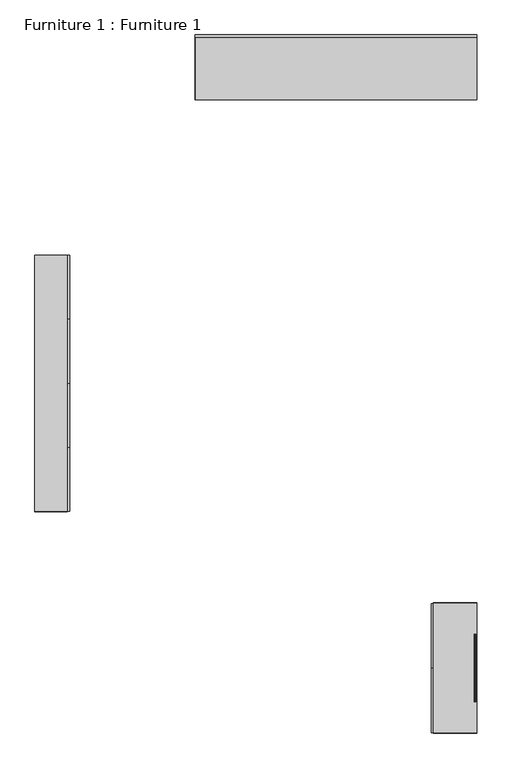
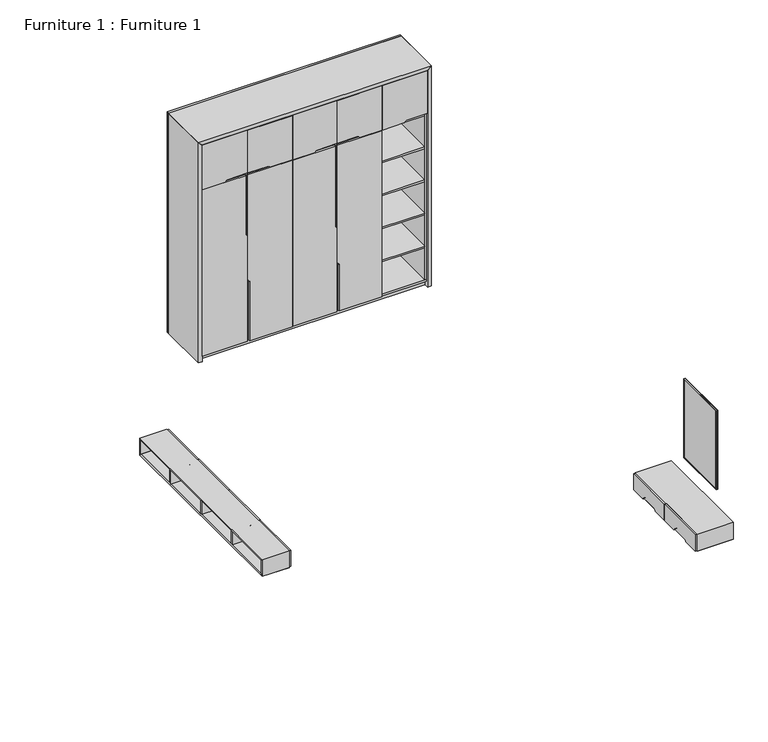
"""IFC4 building model written with IfcOpenShell, lengths in millimetres: furniture geometry, Furniture 1 : Furniture 1."""

from ifc_helpers import new_model, si_unit, point, frame, frame_2d, origin, origin_with_axes, place, context, project, spatial, polyline, circle_curve, ellipse_curve, trimmed, segment, composite_curve, outline, extrude, source, transform, mapped, element, save
from ifc_brep_helpers import plane_surface, cylinder_surface, advanced_brep


def furniture_1_furniture_1_608239b3(model_context):
    return source(origin(), model_context, "Body", "SolidModel", [
        extrude(outline(polyline([(-3038.2037257, -1776.4825683), (-3038.2037257, -2336.9825683), (-3058.2037257, -2336.9825683), (-3058.2037257, -1776.4825683), (-3038.2037257, -1776.4825683)])), frame((0.0, 0.0, 320.0), z_axis=(0.0, 0.0, 1.0), x_axis=(1.0, 0.0, 0.0)), (0.0, 0.0, 1.0), 20.0),
        extrude(outline(polyline([(-3038.2037257, -1184.4825683), (-3038.2037257, -1754.4825683), (-3058.2037257, -1754.4825683), (-3058.2037257, -1184.4825683), (-3038.2037257, -1184.4825683)])), frame((0.0, 0.0, 320.0), z_axis=(0.0, 0.0, 1.0), x_axis=(1.0, 0.0, 0.0)), (0.0, 0.0, 1.0), 20.0),
        extrude(outline(polyline([(-3038.2037257, -592.4825683), (-3038.2037257, -1162.4825683), (-3058.2037257, -1162.4825683), (-3058.2037257, -592.4825683), (-3038.2037257, -592.4825683)])), frame((0.0, 0.0, 320.0), z_axis=(0.0, 0.0, 1.0), x_axis=(1.0, 0.0, 0.0)), (0.0, 0.0, 1.0), 20.0),
        extrude(outline(polyline([(-3038.2037257, -12.9825683), (-3038.2037257, -570.4825683), (-3058.2037257, -570.4825683), (-3058.2037257, -12.9825683), (-3038.2037257, -12.9825683)])), frame((0.0, 0.0, 320.0), z_axis=(0.0, 0.0, 1.0), x_axis=(1.0, 0.0, 0.0)), (0.0, 0.0, 1.0), 20.0),
        extrude(outline(composite_curve([segment(polyline([(-1767.9825683, 495.0), (-1767.9825683, 325.0), (-1836.7325683, 325.0), (-1934.6615005, 325.0)]), True, "CONTINUOUS"), segment(trimmed(circle_curve(frame_2d((-1934.6615005, 320.0)), 5.0), [point((-1934.6615005, 325.0))], [point((-1938.1970344, 323.5355339))], True, "CARTESIAN"), True, "CONTINUOUS"), segment(polyline([(-1938.1970344, 323.5355339), (-1953.8036362, 307.9289322)]), True, "CONTINUOUS"), segment(trimmed(circle_curve(frame_2d((-1960.874704, 315.0)), 10.0), [point((-1953.8036362, 307.9289322))], [point((-1960.874704, 305.0))], False, "CARTESIAN"), True, "CONTINUOUS"), segment(polyline([(-1960.874704, 305.0), (-2352.9825683, 305.0), (-2352.9825683, 495.0), (-1767.9825683, 495.0)]), True, "CONTINUOUS")], self_intersect=False)), frame((-3038.2037257, 0.0, 0.0), z_axis=(1.0, 0.0, 0.0), x_axis=(0.0, 1.0, 0.0)), (0.0, 0.0, 1.0), 20.0),
        extrude(outline(composite_curve([segment(polyline([(-1175.9825683, 305.0), (-1565.0904327, 305.0)]), True, "CONTINUOUS"), segment(trimmed(circle_curve(frame_2d((-1565.0904327, 315.0)), 10.0), [point((-1565.0904327, 305.0))], [point((-1572.1615005, 307.9289322))], False, "CARTESIAN"), True, "CONTINUOUS"), segment(polyline([(-1572.1615005, 307.9289322), (-1587.7681023, 323.5355339)]), True, "CONTINUOUS"), segment(trimmed(circle_curve(frame_2d((-1591.3036362, 320.0)), 5.0), [point((-1587.7681023, 323.5355339))], [point((-1591.3036362, 325.0))], True, "CARTESIAN"), True, "CONTINUOUS"), segment(polyline([(-1591.3036362, 325.0), (-1762.9825683, 325.0), (-1762.9825683, 495.0), (-1175.9825683, 495.0), (-1175.9825683, 305.0)]), True, "CONTINUOUS")], self_intersect=False)), frame((-3038.2037257, 0.0, 0.0), z_axis=(1.0, 0.0, 0.0), x_axis=(0.0, 1.0, 0.0)), (0.0, 0.0, 1.0), 20.0),
        extrude(outline(composite_curve([segment(polyline([(-578.9825683, 495.0), (6.0174317, 495.0), (6.0174317, 305.0), (-386.0904327, 305.0)]), True, "CONTINUOUS"), segment(trimmed(circle_curve(frame_2d((-386.0904327, 315.0)), 10.0), [point((-386.0904327, 305.0))], [point((-393.1615005, 307.9289322))], False, "CARTESIAN"), True, "CONTINUOUS"), segment(polyline([(-393.1615005, 307.9289322), (-408.7681023, 323.5355339)]), True, "CONTINUOUS"), segment(trimmed(circle_curve(frame_2d((-412.3036362, 320.0)), 5.0), [point((-408.7681023, 323.5355339))], [point((-412.3036362, 325.0))], True, "CARTESIAN"), True, "CONTINUOUS"), segment(polyline([(-412.3036362, 325.0), (-510.2325683, 325.0), (-578.9825683, 325.0), (-578.9825683, 495.0)]), True, "CONTINUOUS")], self_intersect=False)), frame((-3038.2037257, 0.0, 0.0), z_axis=(1.0, 0.0, 0.0), x_axis=(0.0, 1.0, 0.0)), (0.0, 0.0, 1.0), 20.0),
        extrude(outline(composite_curve([segment(polyline([(-1170.9825683, 305.0), (-1170.9825683, 495.0), (-583.9825683, 495.0), (-583.9825683, 325.0), (-755.6615005, 325.0)]), True, "CONTINUOUS"), segment(trimmed(circle_curve(frame_2d((-755.6615005, 320.0)), 5.0), [point((-755.6615005, 325.0))], [point((-759.1970344, 323.5355339))], True, "CARTESIAN"), True, "CONTINUOUS"), segment(polyline([(-759.1970344, 323.5355339), (-774.8036362, 307.9289322)]), True, "CONTINUOUS"), segment(trimmed(circle_curve(frame_2d((-781.874704, 315.0)), 10.0), [point((-774.8036362, 307.9289322))], [point((-781.874704, 305.0))], False, "CARTESIAN"), True, "CONTINUOUS"), segment(polyline([(-781.874704, 305.0), (-1170.9825683, 305.0)]), True, "CONTINUOUS")], self_intersect=False)), frame((-3038.2037257, 0.0, 0.0), z_axis=(1.0, 0.0, 0.0), x_axis=(0.0, 1.0, 0.0)), (0.0, 0.0, 1.0), 20.0),
        extrude(outline(polyline([(-2357.2754616, 300.0), (-2337.2754616, 320.0), (-12.6896751, 320.0), (7.3103249, 300.0), (-2357.2754616, 300.0)])), frame((-3338.2037257, 0.0, 0.0), z_axis=(1.0, 0.0, 0.0), x_axis=(0.0, 1.0, 0.0)), (0.0, 0.0, 1.0), 300.0),
        extrude(outline(polyline([(8.0174317, 300.7071068), (-11.9825683, 320.7071068), (-11.9825683, 479.2928932), (8.0174317, 499.2928932), (8.0174317, 300.7071068)])), frame((-3338.2037257, 0.0, 0.0), z_axis=(1.0, 0.0, 0.0), x_axis=(0.0, 1.0, 0.0)), (0.0, 0.0, 1.0), 300.0),
        extrude(outline(polyline([(-2357.9825683, 300.7071068), (-2357.9825683, 499.2928932), (-2337.9825683, 479.2928932), (-2337.9825683, 320.7071068), (-2357.9825683, 300.7071068)])), frame((-3338.2037257, 0.0, 0.0), z_axis=(1.0, 0.0, 0.0), x_axis=(0.0, 1.0, 0.0)), (0.0, 0.0, 1.0), 300.0),
        extrude(outline(polyline([(-2357.2754616, 500.0), (7.3103249, 500.0), (-12.6896751, 480.0), (-2337.2754616, 480.0), (-2357.2754616, 500.0)])), frame((-3338.2037257, 0.0, 0.0), z_axis=(1.0, 0.0, 0.0), x_axis=(0.0, 1.0, 0.0)), (0.0, 0.0, 1.0), 300.0),
        extrude(outline(polyline([(-3038.2037257, -1755.4825683), (-3038.2037257, -1775.4825683), (-3338.2037257, -1775.4825683), (-3338.2037257, -1755.4825683), (-3038.2037257, -1755.4825683)])), frame((0.0, 0.0, 321.0), z_axis=(0.0, 0.0, 1.0), x_axis=(1.0, 0.0, 0.0)), (0.0, 0.0, 1.0), 158.0),
        extrude(outline(polyline([(-3038.2037257, -1163.4825683), (-3038.2037257, -1183.4825683), (-3338.2037257, -1183.4825683), (-3338.2037257, -1163.4825683), (-3038.2037257, -1163.4825683)])), frame((0.0, 0.0, 321.0), z_axis=(0.0, 0.0, 1.0), x_axis=(1.0, 0.0, 0.0)), (0.0, 0.0, 1.0), 158.0),
        extrude(outline(polyline([(-3038.2037257, -571.4825683), (-3038.2037257, -591.4825683), (-3338.2037257, -591.4825683), (-3338.2037257, -571.4825683), (-3038.2037257, -571.4825683)])), frame((0.0, 0.0, 321.0), z_axis=(0.0, 0.0, 1.0), x_axis=(1.0, 0.0, 0.0)), (0.0, 0.0, 1.0), 158.0),
        extrude(outline(polyline([(-4099.9825683, 1890.0), (-3499.9825683, 1890.0), (-3499.9825683, 980.0), (-4099.9825683, 980.0), (-4099.9825683, 1890.0)]), holes=[polyline([(-4089.9825683, 1880.0), (-4089.9825683, 990.0), (-3509.9825683, 990.0), (-3509.9825683, 1880.0), (-4089.9825683, 1880.0)])]), frame((731.7962743, 0.0, 0.0), z_axis=(1.0, 0.0, 0.0), x_axis=(0.0, 1.0, 0.0)), (0.0, 0.0, 1.0), 10.0),
        extrude(outline(polyline([(731.7962743, -4089.9825683), (731.7962743, -3509.9825683), (741.7962743, -3509.9825683), (741.7962743, -4089.9825683), (731.7962743, -4089.9825683)])), frame((0.0, 0.0, 990.0), z_axis=(0.0, 0.0, 1.0), x_axis=(1.0, 0.0, 0.0)), (0.0, 0.0, 1.0), 890.0),
        advanced_brep(
        [(731.7962743, -4109.9825683, 1900.0), (721.7962743, -4109.9825683, 1900.0), (721.7962743, -3489.9825683, 1900.0), (731.7962743, -3489.9825683, 1900.0), (733.8339638, -4107.0194064, 1897.036838), (731.7962743, -4107.0194064, 1897.036838), (731.7962743, -3492.9457303, 1897.036838), (733.8339638, -3492.9457303, 1897.036838), (734.8339638, -4108.0194064, 1898.036838), (734.8339638, -3491.9457303, 1898.036838), (733.8339638, -4112.0194064, 1902.036838), (734.8339638, -4111.0194064, 1901.036838), (734.8339638, -3488.9457303, 1901.036838), (733.8339638, -3487.9457303, 1902.036838), (719.7585848, -4112.0194064, 1902.036838), (719.7585848, -3487.9457303, 1902.036838), (718.7585848, -4111.0194064, 1901.036838), (718.7585848, -3488.9457303, 1901.036838), (719.7585848, -4107.0194064, 1897.036838), (718.7585848, -4108.0194064, 1898.036838), (718.7585848, -3491.9457303, 1898.036838), (719.7585848, -3492.9457303, 1897.036838), (721.7962743, -4107.0194064, 1897.036838), (721.7962743, -3492.9457303, 1897.036838), (721.7962743, -3489.9825683, 970.0), (731.7962743, -3489.9825683, 970.0), (731.7962743, -3492.9457303, 972.963162), (733.8339638, -3492.9457303, 972.963162), (734.8339638, -3491.9457303, 971.963162), (734.8339638, -3488.9457303, 968.963162), (733.8339638, -3487.9457303, 967.963162), (719.7585848, -3487.9457303, 967.963162), (718.7585848, -3488.9457303, 968.963162), (718.7585848, -3491.9457303, 971.963162), (719.7585848, -3492.9457303, 972.963162), (721.7962743, -3492.9457303, 972.963162), (721.7962743, -4109.9825683, 970.0), (731.7962743, -4109.9825683, 970.0), (731.7962743, -4107.0194064, 972.963162), (733.8339638, -4107.0194064, 972.963162), (734.8339638, -4108.0194064, 971.963162), (734.8339638, -4111.0194064, 968.963162), (733.8339638, -4112.0194064, 967.963162), (719.7585848, -4112.0194064, 967.963162), (718.7585848, -4111.0194064, 968.963162), (718.7585848, -4108.0194064, 971.963162), (719.7585848, -4107.0194064, 972.963162), (721.7962743, -4107.0194064, 972.963162)],
        [
            (0, 1),
            (1, 2),
            (2, 3),
            (3, 0),
            (4, 5),
            (5, 6),
            (6, 7),
            (7, 4),
            (8, 4, ellipse_curve(frame((733.8339638, -4108.0194064, 1898.036838), z_axis=(0.0, 0.7071067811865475, 0.7071067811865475), x_axis=(0.0, -0.7071067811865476, 0.7071067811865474)), 1.4142136, 1.0)),
            (7, 9, ellipse_curve(frame((733.8339638, -3491.9457303, 1898.036838), z_axis=(0.0, -0.7071067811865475, 0.7071067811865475), x_axis=(0.0, -0.7071067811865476, -0.7071067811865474)), 1.4142136, 1.0)),
            (9, 8),
            (10, 11, ellipse_curve(frame((733.8339638, -4111.0194064, 1901.036838), z_axis=(0.0, 0.7071067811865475, 0.7071067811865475), x_axis=(0.0, -0.7071067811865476, 0.7071067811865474)), 1.4142136, 1.0)),
            (11, 12),
            (12, 13, ellipse_curve(frame((733.8339638, -3488.9457303, 1901.036838), z_axis=(0.0, -0.7071067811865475, 0.7071067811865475), x_axis=(0.0, -0.7071067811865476, -0.7071067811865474)), 1.4142136, 1.0)),
            (13, 10),
            (14, 10),
            (13, 15),
            (15, 14),
            (16, 14, ellipse_curve(frame((719.7585848, -4111.0194064, 1901.036838), z_axis=(0.0, 0.7071067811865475, 0.7071067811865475), x_axis=(0.0, -0.7071067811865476, 0.7071067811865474)), 1.4142136, 1.0)),
            (15, 17, ellipse_curve(frame((719.7585848, -3488.9457303, 1901.036838), z_axis=(0.0, -0.7071067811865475, 0.7071067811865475), x_axis=(0.0, -0.7071067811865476, -0.7071067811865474)), 1.4142136, 1.0)),
            (17, 16),
            (18, 19, ellipse_curve(frame((719.7585848, -4108.0194064, 1898.036838), z_axis=(0.0, 0.7071067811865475, 0.7071067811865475), x_axis=(0.0, -0.7071067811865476, 0.7071067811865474)), 1.4142136, 1.0)),
            (19, 20),
            (20, 21, ellipse_curve(frame((719.7585848, -3491.9457303, 1898.036838), z_axis=(0.0, -0.7071067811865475, 0.7071067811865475), x_axis=(0.0, -0.7071067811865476, -0.7071067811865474)), 1.4142136, 1.0)),
            (21, 18),
            (22, 18),
            (21, 23),
            (23, 22),
            (2, 24),
            (24, 25),
            (25, 3),
            (6, 26),
            (26, 27),
            (27, 7),
            (27, 28, ellipse_curve(frame((733.8339638, -3491.9457303, 971.963162), z_axis=(0.0, 0.7071067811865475, 0.7071067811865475), x_axis=(0.0, -0.7071067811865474, 0.7071067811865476)), 1.4142136, 1.0)),
            (28, 9),
            (12, 29),
            (29, 30, ellipse_curve(frame((733.8339638, -3488.9457303, 968.963162), z_axis=(0.0, 0.7071067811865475, 0.7071067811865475), x_axis=(0.0, -0.7071067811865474, 0.7071067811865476)), 1.4142136, 1.0)),
            (30, 13),
            (30, 31),
            (31, 15),
            (31, 32, ellipse_curve(frame((719.7585848, -3488.9457303, 968.963162), z_axis=(0.0, 0.7071067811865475, 0.7071067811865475), x_axis=(0.0, -0.7071067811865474, 0.7071067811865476)), 1.4142136, 1.0)),
            (32, 17),
            (20, 33),
            (33, 34, ellipse_curve(frame((719.7585848, -3491.9457303, 971.963162), z_axis=(0.0, 0.7071067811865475, 0.7071067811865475), x_axis=(0.0, -0.7071067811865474, 0.7071067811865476)), 1.4142136, 1.0)),
            (34, 21),
            (34, 35),
            (35, 23),
            (24, 36),
            (36, 37),
            (37, 25),
            (26, 38),
            (38, 39),
            (39, 27),
            (39, 40, ellipse_curve(frame((733.8339638, -4108.0194064, 971.963162), z_axis=(0.0, 0.7071067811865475, -0.7071067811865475), x_axis=(0.0, 0.7071067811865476, 0.7071067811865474)), 1.4142136, 1.0)),
            (40, 28),
            (29, 41),
            (41, 42, ellipse_curve(frame((733.8339638, -4111.0194064, 968.963162), z_axis=(0.0, 0.7071067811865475, -0.7071067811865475), x_axis=(0.0, 0.7071067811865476, 0.7071067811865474)), 1.4142136, 1.0)),
            (42, 30),
            (42, 43),
            (43, 31),
            (43, 44, ellipse_curve(frame((719.7585848, -4111.0194064, 968.963162), z_axis=(0.0, 0.7071067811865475, -0.7071067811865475), x_axis=(0.0, 0.7071067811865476, 0.7071067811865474)), 1.4142136, 1.0)),
            (44, 32),
            (33, 45),
            (45, 46, ellipse_curve(frame((719.7585848, -4108.0194064, 971.963162), z_axis=(0.0, 0.7071067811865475, -0.7071067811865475), x_axis=(0.0, 0.7071067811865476, 0.7071067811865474)), 1.4142136, 1.0)),
            (46, 34),
            (46, 47),
            (47, 35),
            (1, 36),
            (47, 22),
            (0, 37),
            (5, 38),
            (4, 39),
            (8, 40),
            (11, 41),
            (10, 42),
            (14, 43),
            (16, 44),
            (19, 45),
            (18, 46),
        ],
        [
            plane_surface(frame((721.7962743, -4109.9825683, 1900.0), z_axis=(0.0, 0.0, -1.0), x_axis=(0.0, 1.0, 0.0))),
            plane_surface(frame((731.7962743, -4107.0194064, 1897.036838), z_axis=(0.0, 0.0, -1.0), x_axis=(0.0, 1.0, 0.0))),
            cylinder_surface(frame((733.8339638, -4109.9825683, 1898.036838), z_axis=(0.0, -1.0, 0.0), x_axis=(0.0, 0.0, -1.0)), 1.0),
            cylinder_surface(frame((733.8339638, -4109.9825683, 1901.036838), z_axis=(0.0, -1.0, 0.0), x_axis=(0.0, 0.0, -1.0)), 1.0),
            plane_surface(frame((733.8339638, -4112.0194064, 1902.036838), z_axis=(0.0, 0.0, 1.0), x_axis=(0.0, 1.0, 0.0))),
            cylinder_surface(frame((719.7585848, -4109.9825683, 1901.036838), z_axis=(0.0, -1.0, 0.0), x_axis=(0.0, 0.0, -1.0)), 1.0),
            cylinder_surface(frame((719.7585848, -4109.9825683, 1898.036838), z_axis=(0.0, -1.0, 0.0), x_axis=(0.0, 0.0, -1.0)), 1.0),
            plane_surface(frame((719.7585848, -4107.0194064, 1897.036838), z_axis=(0.0, 0.0, -1.0), x_axis=(0.0, 1.0, 0.0))),
            plane_surface(frame((721.7962743, -3489.9825683, 1900.0), z_axis=(0.0, -1.0, 0.0), x_axis=(0.0, 0.0, -1.0))),
            plane_surface(frame((731.7962743, -3492.9457303, 1897.036838), z_axis=(0.0, -1.0, 0.0), x_axis=(0.0, 0.0, -1.0))),
            cylinder_surface(frame((733.8339638, -3491.9457303, 1900.0), z_axis=(0.0, 0.0, 1.0), x_axis=(0.0, -1.0, 0.0)), 1.0),
            cylinder_surface(frame((733.8339638, -3488.9457303, 1900.0), z_axis=(0.0, 0.0, 1.0), x_axis=(0.0, -1.0, 0.0)), 1.0),
            plane_surface(frame((733.8339638, -3487.9457303, 1902.036838), z_axis=(0.0, 1.0, 0.0), x_axis=(0.0, 0.0, -1.0))),
            cylinder_surface(frame((719.7585848, -3488.9457303, 1900.0), z_axis=(0.0, 0.0, 1.0), x_axis=(0.0, -1.0, 0.0)), 1.0),
            cylinder_surface(frame((719.7585848, -3491.9457303, 1900.0), z_axis=(0.0, 0.0, 1.0), x_axis=(0.0, -1.0, 0.0)), 1.0),
            plane_surface(frame((719.7585848, -3492.9457303, 1897.036838), z_axis=(0.0, -1.0, 0.0), x_axis=(0.0, 0.0, -1.0))),
            plane_surface(frame((721.7962743, -3489.9825683, 970.0), z_axis=(0.0, 0.0, 1.0), x_axis=(0.0, -1.0, 0.0))),
            plane_surface(frame((731.7962743, -3492.9457303, 972.963162), z_axis=(0.0, 0.0, 1.0), x_axis=(0.0, -1.0, 0.0))),
            cylinder_surface(frame((733.8339638, -3489.9825683, 971.963162), z_axis=(0.0, 1.0, 0.0), x_axis=(0.0, 0.0, 1.0)), 1.0),
            cylinder_surface(frame((733.8339638, -3489.9825683, 968.963162), z_axis=(0.0, 1.0, 0.0), x_axis=(0.0, 0.0, 1.0)), 1.0),
            plane_surface(frame((733.8339638, -3487.9457303, 967.963162), z_axis=(0.0, 0.0, -1.0), x_axis=(0.0, -1.0, 0.0))),
            cylinder_surface(frame((719.7585848, -3489.9825683, 968.963162), z_axis=(0.0, 1.0, 0.0), x_axis=(0.0, 0.0, 1.0)), 1.0),
            cylinder_surface(frame((719.7585848, -3489.9825683, 971.963162), z_axis=(0.0, 1.0, 0.0), x_axis=(0.0, 0.0, 1.0)), 1.0),
            plane_surface(frame((719.7585848, -3492.9457303, 972.963162), z_axis=(0.0, 0.0, 1.0), x_axis=(0.0, -1.0, 0.0))),
            plane_surface(frame((721.7962743, -4107.0194064, 972.963162), z_axis=(1.0, 0.0, 0.0), x_axis=(0.0, 0.0, 1.0))),
            plane_surface(frame((721.7962743, -4109.9825683, 970.0), z_axis=(0.0, 1.0, 0.0), x_axis=(0.0, 0.0, 1.0))),
            plane_surface(frame((731.7962743, -4109.9825683, 970.0), z_axis=(-1.0, 0.0, 0.0), x_axis=(0.0, 0.0, 1.0))),
            plane_surface(frame((731.7962743, -4107.0194064, 972.963162), z_axis=(0.0, 1.0, 0.0), x_axis=(0.0, 0.0, 1.0))),
            cylinder_surface(frame((733.8339638, -4108.0194064, 970.0), z_axis=(0.0, 0.0, -1.0), x_axis=(0.0, 1.0, 0.0)), 1.0),
            plane_surface(frame((734.8339638, -4108.0194064, 971.963162), z_axis=(1.0, 0.0, 0.0), x_axis=(0.0, 0.0, 1.0))),
            cylinder_surface(frame((733.8339638, -4111.0194064, 970.0), z_axis=(0.0, 0.0, -1.0), x_axis=(0.0, 1.0, 0.0)), 1.0),
            plane_surface(frame((733.8339638, -4112.0194064, 967.963162), z_axis=(0.0, -1.0, 0.0), x_axis=(0.0, 0.0, 1.0))),
            cylinder_surface(frame((719.7585848, -4111.0194064, 970.0), z_axis=(0.0, 0.0, -1.0), x_axis=(0.0, 1.0, 0.0)), 1.0),
            plane_surface(frame((718.7585848, -4111.0194064, 968.963162), z_axis=(-1.0, 0.0, 0.0), x_axis=(0.0, 0.0, 1.0))),
            cylinder_surface(frame((719.7585848, -4108.0194064, 970.0), z_axis=(0.0, 0.0, -1.0), x_axis=(0.0, 1.0, 0.0)), 1.0),
            plane_surface(frame((719.7585848, -4107.0194064, 972.963162), z_axis=(0.0, 1.0, 0.0), x_axis=(0.0, 0.0, 1.0))),
        ],
        [
            (0, [[1, 2, 3, 4]]),
            (1, [[5, 6, 7, 8]]),
            (2, [[9, -8, 10, 11]]),
            (3, [[12, 13, 14, 15]]),
            (4, [[16, -15, 17, 18]]),
            (5, [[19, -18, 20, 21]]),
            (6, [[22, 23, 24, 25]]),
            (7, [[26, -25, 27, 28]]),
            (8, [[-3, 29, 30, 31]]),
            (9, [[-7, 32, 33, 34]]),
            (10, [[-10, -34, 35, 36]]),
            (11, [[-14, 37, 38, 39]]),
            (12, [[-17, -39, 40, 41]]),
            (13, [[-20, -41, 42, 43]]),
            (14, [[-24, 44, 45, 46]]),
            (15, [[-27, -46, 47, 48]]),
            (16, [[-30, 49, 50, 51]]),
            (17, [[-33, 52, 53, 54]]),
            (18, [[-35, -54, 55, 56]]),
            (19, [[-38, 57, 58, 59]]),
            (20, [[-40, -59, 60, 61]]),
            (21, [[-42, -61, 62, 63]]),
            (22, [[-45, 64, 65, 66]]),
            (23, [[-47, -66, 67, 68]]),
            (24, [[69, -49, -29, -2], [-48, -68, 70, -28]]),
            (25, [[-50, -69, -1, 71]]),
            (26, [[-31, -51, -71, -4], [72, -52, -32, -6]]),
            (27, [[-53, -72, -5, 73]]),
            (28, [[-55, -73, -9, 74]]),
            (29, [[75, -57, -37, -13], [-36, -56, -74, -11]]),
            (30, [[-58, -75, -12, 76]]),
            (31, [[-60, -76, -16, 77]]),
            (32, [[-62, -77, -19, 78]]),
            (33, [[-43, -63, -78, -21], [79, -64, -44, -23]]),
            (34, [[-65, -79, -22, 80]]),
            (35, [[-67, -80, -26, -70]]),
        ],
    ),
        extrude(outline(polyline([(721.7962743, -4109.9825683), (721.7962743, -3489.9825683), (731.7962743, -3489.9825683), (731.7962743, -4109.9825683), (721.7962743, -4109.9825683)])), frame((0.0, 0.0, 970.0), z_axis=(0.0, 0.0, 1.0), x_axis=(1.0, 0.0, 0.0)), (0.0, 0.0, 1.0), 930.0),
        extrude(outline(polyline([(341.7962743, -3788.9825683), (341.7962743, -3220.9825683), (361.7962743, -3220.9825683), (361.7962743, -3788.9825683), (341.7962743, -3788.9825683)])), frame((0.0, 0.0, 570.0), z_axis=(0.0, 0.0, 1.0), x_axis=(1.0, 0.0, 0.0)), (0.0, 0.0, 1.0), 20.0),
        extrude(outline(polyline([(341.7962743, -4378.9825683), (341.7962743, -3810.9825683), (361.7962743, -3810.9825683), (361.7962743, -4378.9825683), (341.7962743, -4378.9825683)])), frame((0.0, 0.0, 570.0), z_axis=(0.0, 0.0, 1.0), x_axis=(1.0, 0.0, 0.0)), (0.0, 0.0, 1.0), 20.0),
        extrude(outline(composite_curve([segment(polyline([(-3802.4825683, 745.0), (-3802.4825683, 555.0), (-3974.5904327, 555.0)]), True, "CONTINUOUS"), segment(trimmed(circle_curve(frame_2d((-3974.5904327, 565.0)), 10.0), [point((-3974.5904327, 555.0))], [point((-3981.6615005, 557.9289322))], False, "CARTESIAN"), True, "CONTINUOUS"), segment(polyline([(-3981.6615005, 557.9289322), (-3997.2681023, 573.5355339)]), True, "CONTINUOUS"), segment(trimmed(circle_curve(frame_2d((-4000.8036362, 570.0)), 5.0), [point((-3997.2681023, 573.5355339))], [point((-4000.8036362, 575.0))], True, "CARTESIAN"), True, "CONTINUOUS"), segment(polyline([(-4000.8036362, 575.0), (-4098.7325683, 575.0), (-4196.6615005, 575.0)]), True, "CONTINUOUS"), segment(trimmed(circle_curve(frame_2d((-4196.6615005, 570.0)), 5.0), [point((-4196.6615005, 575.0))], [point((-4200.1970344, 573.5355339))], True, "CARTESIAN"), True, "CONTINUOUS"), segment(polyline([(-4200.1970344, 573.5355339), (-4215.8036362, 557.9289322)]), True, "CONTINUOUS"), segment(trimmed(circle_curve(frame_2d((-4222.874704, 565.0)), 10.0), [point((-4215.8036362, 557.9289322))], [point((-4222.874704, 555.0))], False, "CARTESIAN"), True, "CONTINUOUS"), segment(polyline([(-4222.874704, 555.0), (-4394.9825683, 555.0), (-4394.9825683, 745.0), (-3802.4825683, 745.0)]), True, "CONTINUOUS")], self_intersect=False)), frame((321.7962743, 0.0, 0.0), z_axis=(1.0, 0.0, 0.0), x_axis=(0.0, 1.0, 0.0)), (0.0, 0.0, 1.0), 20.0),
        extrude(outline(composite_curve([segment(polyline([(-3204.9825683, 555.0), (-3377.0904327, 555.0)]), True, "CONTINUOUS"), segment(trimmed(circle_curve(frame_2d((-3377.0904327, 565.0)), 10.0), [point((-3377.0904327, 555.0))], [point((-3384.1615005, 557.9289322))], False, "CARTESIAN"), True, "CONTINUOUS"), segment(polyline([(-3384.1615005, 557.9289322), (-3399.7681023, 573.5355339)]), True, "CONTINUOUS"), segment(trimmed(circle_curve(frame_2d((-3403.3036362, 570.0)), 5.0), [point((-3399.7681023, 573.5355339))], [point((-3403.3036362, 575.0))], True, "CARTESIAN"), True, "CONTINUOUS"), segment(polyline([(-3403.3036362, 575.0), (-3501.2325683, 575.0), (-3599.1615005, 575.0)]), True, "CONTINUOUS"), segment(trimmed(circle_curve(frame_2d((-3599.1615005, 570.0)), 5.0), [point((-3599.1615005, 575.0))], [point((-3602.6970344, 573.5355339))], True, "CARTESIAN"), True, "CONTINUOUS"), segment(polyline([(-3602.6970344, 573.5355339), (-3618.3036362, 557.9289322)]), True, "CONTINUOUS"), segment(trimmed(circle_curve(frame_2d((-3625.374704, 565.0)), 10.0), [point((-3618.3036362, 557.9289322))], [point((-3625.374704, 555.0))], False, "CARTESIAN"), True, "CONTINUOUS"), segment(polyline([(-3625.374704, 555.0), (-3797.4825683, 555.0), (-3797.4825683, 745.0), (-3204.9825683, 745.0), (-3204.9825683, 555.0)]), True, "CONTINUOUS")], self_intersect=False)), frame((321.7962743, 0.0, 0.0), z_axis=(1.0, 0.0, 0.0), x_axis=(0.0, 1.0, 0.0)), (0.0, 0.0, 1.0), 20.0),
        extrude(outline(polyline([(-4399.2754616, 550.0), (-4379.2754616, 570.0), (-3220.6896751, 570.0), (-3200.6896751, 550.0), (-4399.2754616, 550.0)])), frame((341.7962743, 0.0, 0.0), z_axis=(1.0, 0.0, 0.0), x_axis=(0.0, 1.0, 0.0)), (0.0, 0.0, 1.0), 400.0),
        extrude(outline(polyline([(-3199.9825683, 550.7071068), (-3219.9825683, 570.7071068), (-3219.9825683, 729.2928932), (-3199.9825683, 749.2928932), (-3199.9825683, 550.7071068)])), frame((341.7962743, 0.0, 0.0), z_axis=(1.0, 0.0, 0.0), x_axis=(0.0, 1.0, 0.0)), (0.0, 0.0, 1.0), 400.0),
        extrude(outline(polyline([(-4399.9825683, 550.7071068), (-4399.9825683, 749.2928932), (-4379.9825683, 729.2928932), (-4379.9825683, 570.7071068), (-4399.9825683, 550.7071068)])), frame((341.7962743, 0.0, 0.0), z_axis=(1.0, 0.0, 0.0), x_axis=(0.0, 1.0, 0.0)), (0.0, 0.0, 1.0), 400.0),
        extrude(outline(polyline([(-4399.2754616, 750.0), (-3200.6896751, 750.0), (-3220.6896751, 730.0), (-4379.2754616, 730.0), (-4399.2754616, 750.0)])), frame((341.7962743, 0.0, 0.0), z_axis=(1.0, 0.0, 0.0), x_axis=(0.0, 1.0, 0.0)), (0.0, 0.0, 1.0), 400.0),
        extrude(outline(polyline([(341.7962743, -3809.9825683), (341.7962743, -3789.9825683), (741.7962743, -3789.9825683), (741.7962743, -3809.9825683), (341.7962743, -3809.9825683)])), frame((0.0, 0.0, 571.0), z_axis=(0.0, 0.0, 1.0), x_axis=(1.0, 0.0, 0.0)), (0.0, 0.0, 1.0), 158.0),
        extrude(outline(polyline([(-278.2037257, 1460.0174317), (-298.2037257, 1460.0174317), (-298.2037257, 1480.0174317), (-278.2037257, 1480.0174317), (-278.2037257, 1460.0174317)])), frame((0.0, 0.0, 80.0), z_axis=(0.0, 0.0, 1.0), x_axis=(1.0, 0.0, 0.0)), (0.0, 0.0, 1.0), 1939.0),
        extrude(outline(polyline([(-318.2037257, 1460.0174317), (-338.2037257, 1460.0174317), (-338.2037257, 1480.0174317), (-318.2037257, 1480.0174317), (-318.2037257, 1460.0174317)])), frame((0.0, 0.0, 80.0), z_axis=(0.0, 0.0, 1.0), x_axis=(1.0, 0.0, 0.0)), (0.0, 0.0, 1.0), 1939.0),
        extrude(outline(polyline([(-818.2037257, 1460.0174317), (-838.2037257, 1460.0174317), (-838.2037257, 1480.0174317), (-818.2037257, 1480.0174317), (-818.2037257, 1460.0174317)])), frame((0.0, 0.0, 80.0), z_axis=(0.0, 0.0, 1.0), x_axis=(1.0, 0.0, 0.0)), (0.0, 0.0, 1.0), 1939.0),
        extrude(outline(polyline([(-1318.2037257, 1460.0174317), (-1338.2037257, 1460.0174317), (-1338.2037257, 1480.0174317), (-1318.2037257, 1480.0174317), (-1318.2037257, 1460.0174317)])), frame((0.0, 0.0, 80.0), z_axis=(0.0, 0.0, 1.0), x_axis=(1.0, 0.0, 0.0)), (0.0, 0.0, 1.0), 1939.0),
        extrude(outline(polyline([(-1278.2037257, 1460.0174317), (-1298.2037257, 1460.0174317), (-1298.2037257, 1480.0174317), (-1278.2037257, 1480.0174317), (-1278.2037257, 1460.0174317)])), frame((0.0, 0.0, 80.0), z_axis=(0.0, 0.0, 1.0), x_axis=(1.0, 0.0, 0.0)), (0.0, 0.0, 1.0), 1939.0),
        extrude(outline(polyline([(-778.2037257, 1460.0174317), (-798.2037257, 1460.0174317), (-798.2037257, 1480.0174317), (-778.2037257, 1480.0174317), (-778.2037257, 1460.0174317)])), frame((0.0, 0.0, 80.0), z_axis=(0.0, 0.0, 1.0), x_axis=(1.0, 0.0, 0.0)), (0.0, 0.0, 1.0), 1939.0),
        extrude(outline(polyline([(-1319.2037257, 1460.0174317), (-1797.2037257, 1460.0174317), (-1797.2037257, 1480.0174317), (-1319.2037257, 1480.0174317), (-1319.2037257, 1460.0174317)])), frame((0.0, 0.0, 2040.0), z_axis=(0.0, 0.0, 1.0), x_axis=(1.0, 0.0, 0.0)), (0.0, 0.0, 1.0), 20.0),
        extrude(outline(polyline([(-819.2037257, 1460.0174317), (-1297.2037257, 1460.0174317), (-1297.2037257, 1480.0174317), (-819.2037257, 1480.0174317), (-819.2037257, 1460.0174317)])), frame((0.0, 0.0, 2040.0), z_axis=(0.0, 0.0, 1.0), x_axis=(1.0, 0.0, 0.0)), (0.0, 0.0, 1.0), 20.0),
        extrude(outline(polyline([(-319.2037257, 1460.0174317), (-797.2037257, 1460.0174317), (-797.2037257, 1480.0174317), (-319.2037257, 1480.0174317), (-319.2037257, 1460.0174317)])), frame((0.0, 0.0, 2040.0), z_axis=(0.0, 0.0, 1.0), x_axis=(1.0, 0.0, 0.0)), (0.0, 0.0, 1.0), 20.0),
        extrude(outline(polyline([(180.7962743, 1460.0174317), (-297.2037257, 1460.0174317), (-297.2037257, 1480.0174317), (180.7962743, 1480.0174317), (180.7962743, 1460.0174317)])), frame((0.0, 0.0, 2040.0), z_axis=(0.0, 0.0, 1.0), x_axis=(1.0, 0.0, 0.0)), (0.0, 0.0, 1.0), 20.0),
        extrude(outline(polyline([(680.7962743, 1460.0174317), (202.7962743, 1460.0174317), (202.7962743, 1480.0174317), (680.7962743, 1480.0174317), (680.7962743, 1460.0174317)])), frame((0.0, 0.0, 2040.0), z_axis=(0.0, 0.0, 1.0), x_axis=(1.0, 0.0, 0.0)), (0.0, 0.0, 1.0), 20.0),
        extrude(outline(composite_curve([segment(polyline([(2555.0, -1310.7037257), (2555.0, -1813.2037257), (2032.5, -1813.2037257), (2032.5, -1566.0958613)]), True, "CONTINUOUS"), segment(trimmed(circle_curve(frame_2d((2042.5, -1566.0958613)), 10.0), [point((2032.5, -1566.0958613))], [point((2035.4289322, -1559.0247935))], False, "CARTESIAN"), True, "CONTINUOUS"), segment(polyline([(2035.4289322, -1559.0247935), (2049.5710678, -1544.8826579)]), True, "CONTINUOUS"), segment(trimmed(circle_curve(frame_2d((2042.5, -1537.8115901)), 10.0), [point((2049.5710678, -1544.8826579))], [point((2052.5, -1537.8115901))], True, "CARTESIAN"), True, "CONTINUOUS"), segment(polyline([(2052.5, -1537.8115901), (2052.5, -1310.7037257), (2555.0, -1310.7037257)]), True, "CONTINUOUS")], self_intersect=False)), frame((0.0, 1440.0174317, 0.0), z_axis=(0.0, 1.0, 0.0), x_axis=(0.0, 0.0, 1.0)), (0.0, 0.0, 1.0), 20.0),
        extrude(outline(composite_curve([segment(polyline([(2555.0, -1305.7037257), (2052.5, -1305.7037257), (2052.5, -1078.5958613)]), True, "CONTINUOUS"), segment(trimmed(circle_curve(frame_2d((2042.5, -1078.5958613)), 10.0), [point((2052.5, -1078.5958613))], [point((2049.5710678, -1071.5247935))], True, "CARTESIAN"), True, "CONTINUOUS"), segment(polyline([(2049.5710678, -1071.5247935), (2035.4289322, -1057.3826579)]), True, "CONTINUOUS"), segment(trimmed(circle_curve(frame_2d((2042.5, -1050.3115901)), 10.0), [point((2035.4289322, -1057.3826579))], [point((2032.5, -1050.3115901))], False, "CARTESIAN"), True, "CONTINUOUS"), segment(polyline([(2032.5, -1050.3115901), (2032.5, -810.7037257), (2555.0, -810.7037257), (2555.0, -1305.7037257)]), True, "CONTINUOUS")], self_intersect=False)), frame((0.0, 1440.0174317, 0.0), z_axis=(0.0, 1.0, 0.0), x_axis=(0.0, 0.0, 1.0)), (0.0, 0.0, 1.0), 20.0),
        extrude(outline(composite_curve([segment(polyline([(2555.0, -310.7037257), (2555.0, -805.7037257), (2032.5, -805.7037257), (2032.5, -566.0958613)]), True, "CONTINUOUS"), segment(trimmed(circle_curve(frame_2d((2042.5, -566.0958613)), 10.0), [point((2032.5, -566.0958613))], [point((2035.4289322, -559.0247935))], False, "CARTESIAN"), True, "CONTINUOUS"), segment(polyline([(2035.4289322, -559.0247935), (2049.5710678, -544.8826579)]), True, "CONTINUOUS"), segment(trimmed(circle_curve(frame_2d((2042.5, -537.8115901)), 10.0), [point((2049.5710678, -544.8826579))], [point((2052.5, -537.8115901))], True, "CARTESIAN"), True, "CONTINUOUS"), segment(polyline([(2052.5, -537.8115901), (2052.5, -310.7037257), (2555.0, -310.7037257)]), True, "CONTINUOUS")], self_intersect=False)), frame((0.0, 1440.0174317, 0.0), z_axis=(0.0, 1.0, 0.0), x_axis=(0.0, 0.0, 1.0)), (0.0, 0.0, 1.0), 20.0),
        extrude(outline(composite_curve([segment(polyline([(2555.0, -305.7037257), (2052.5, -305.7037257), (2052.5, -78.5958613)]), True, "CONTINUOUS"), segment(trimmed(circle_curve(frame_2d((2042.5, -78.5958613)), 10.0), [point((2052.5, -78.5958613))], [point((2049.5710678, -71.5247935))], True, "CARTESIAN"), True, "CONTINUOUS"), segment(polyline([(2049.5710678, -71.5247935), (2035.4289322, -57.3826579)]), True, "CONTINUOUS"), segment(trimmed(circle_curve(frame_2d((2042.5, -50.3115901)), 10.0), [point((2035.4289322, -57.3826579))], [point((2032.5, -50.3115901))], False, "CARTESIAN"), True, "CONTINUOUS"), segment(polyline([(2032.5, -50.3115901), (2032.5, 189.2962743), (2555.0, 189.2962743), (2555.0, -305.7037257)]), True, "CONTINUOUS")], self_intersect=False)), frame((0.0, 1440.0174317, 0.0), z_axis=(0.0, 1.0, 0.0), x_axis=(0.0, 0.0, 1.0)), (0.0, 0.0, 1.0), 20.0),
        extrude(outline(composite_curve([segment(polyline([(2555.0, 696.7962743), (2555.0, 194.2962743), (2032.5, 194.2962743), (2032.5, 433.9041387)]), True, "CONTINUOUS"), segment(trimmed(circle_curve(frame_2d((2042.5, 433.9041387)), 10.0), [point((2032.5, 433.9041387))], [point((2035.4289322, 440.9752065))], False, "CARTESIAN"), True, "CONTINUOUS"), segment(polyline([(2035.4289322, 440.9752065), (2049.5710678, 455.1173421)]), True, "CONTINUOUS"), segment(trimmed(circle_curve(frame_2d((2042.5, 462.1884099)), 10.0), [point((2049.5710678, 455.1173421))], [point((2052.5, 462.1884099))], True, "CARTESIAN"), True, "CONTINUOUS"), segment(polyline([(2052.5, 462.1884099), (2052.5, 696.7962743), (2555.0, 696.7962743)]), True, "CONTINUOUS")], self_intersect=False)), frame((0.0, 1440.0174317, 0.0), z_axis=(0.0, 1.0, 0.0), x_axis=(0.0, 0.0, 1.0)), (0.0, 0.0, 1.0), 20.0),
        extrude(outline(composite_curve([segment(polyline([(2027.5, -1330.7037257), (2027.5, -1813.2037257), (64.0, -1813.2037257), (64.0, -1310.7037257), (1303.4078644, -1310.7037257)]), True, "CONTINUOUS"), segment(trimmed(circle_curve(frame_2d((1303.4078644, -1320.7037257)), 10.0), [point((1303.4078644, -1310.7037257))], [point((1310.4789322, -1313.6326579))], False, "CARTESIAN"), True, "CONTINUOUS"), segment(polyline([(1310.4789322, -1313.6326579), (1326.4030965, -1329.5568223)]), True, "CONTINUOUS"), segment(trimmed(circle_curve(frame_2d((1329.9386305, -1326.0212884)), 5.0), [point((1326.4030965, -1329.5568223))], [point((1331.6921356, -1330.7037257))], True, "CARTESIAN"), True, "CONTINUOUS"), segment(polyline([(1331.6921356, -1330.7037257), (2027.5, -1330.7037257)]), True, "CONTINUOUS")], self_intersect=False)), frame((0.0, 1440.0174317, 0.0), z_axis=(0.0, 1.0, 0.0), x_axis=(0.0, 0.0, 1.0)), (0.0, 0.0, 1.0), 20.0),
        extrude(outline(composite_curve([segment(polyline([(2027.5, -1305.7037257), (788.0921356, -1305.7037257)]), True, "CONTINUOUS"), segment(trimmed(circle_curve(frame_2d((788.0921356, -1295.7037257)), 10.0), [point((788.0921356, -1305.7037257))], [point((781.0210678, -1302.7747935))], False, "CARTESIAN"), True, "CONTINUOUS"), segment(polyline([(781.0210678, -1302.7747935), (766.8789322, -1288.6326579)]), True, "CONTINUOUS"), segment(trimmed(circle_curve(frame_2d((762.3280336, -1290.7037257)), 5.0), [point((766.8789322, -1288.6326579))], [point((762.3280336, -1285.7037257))], True, "CARTESIAN"), True, "CONTINUOUS"), segment(polyline([(762.3280336, -1285.7037257), (64.0, -1285.7037257), (64.0, -810.7037257), (2027.5, -810.7037257), (2027.5, -1305.7037257)]), True, "CONTINUOUS")], self_intersect=False)), frame((0.0, 1440.0174317, 0.0), z_axis=(0.0, 1.0, 0.0), x_axis=(0.0, 0.0, 1.0)), (0.0, 0.0, 1.0), 20.0),
        extrude(outline(composite_curve([segment(polyline([(2027.5, -305.7037257), (638.0921356, -305.7037257)]), True, "CONTINUOUS"), segment(trimmed(circle_curve(frame_2d((638.0921356, -295.7037257)), 10.0), [point((638.0921356, -305.7037257))], [point((631.0210678, -302.7747935))], False, "CARTESIAN"), True, "CONTINUOUS"), segment(polyline([(631.0210678, -302.7747935), (616.8789322, -288.6326579)]), True, "CONTINUOUS"), segment(trimmed(circle_curve(frame_2d((609.8078644, -295.7037257)), 10.0), [point((616.8789322, -288.6326579))], [point((609.8078644, -285.7037257))], True, "CARTESIAN"), True, "CONTINUOUS"), segment(polyline([(609.8078644, -285.7037257), (64.0, -285.7037257), (64.0, 189.2962743), (2027.5, 189.2962743), (2027.5, -305.7037257)]), True, "CONTINUOUS")], self_intersect=False)), frame((0.0, 1440.0174317, 0.0), z_axis=(0.0, 1.0, 0.0), x_axis=(0.0, 0.0, 1.0)), (0.0, 0.0, 1.0), 20.0),
        extrude(outline(composite_curve([segment(polyline([(2027.5, -330.7037257), (2027.5, -805.7037257), (64.0, -805.7037257), (64.0, -310.7037257), (1048.4078644, -310.7037257)]), True, "CONTINUOUS"), segment(trimmed(circle_curve(frame_2d((1048.4078644, -320.7037257)), 10.0), [point((1048.4078644, -310.7037257))], [point((1055.4789322, -313.6326579))], False, "CARTESIAN"), True, "CONTINUOUS"), segment(polyline([(1055.4789322, -313.6326579), (1071.0855339, -329.2392596)]), True, "CONTINUOUS"), segment(trimmed(circle_curve(frame_2d((1074.6210678, -325.7037257)), 5.0), [point((1071.0855339, -329.2392596))], [point((1074.6210678, -330.7037257))], True, "CARTESIAN"), True, "CONTINUOUS"), segment(polyline([(1074.6210678, -330.7037257), (2027.5, -330.7037257)]), True, "CONTINUOUS")], self_intersect=False)), frame((0.0, 1440.0174317, 0.0), z_axis=(0.0, 1.0, 0.0), x_axis=(0.0, 0.0, 1.0)), (0.0, 0.0, 1.0), 20.0),
        extrude(outline(polyline([(700.7962743, 1490.0174317), (-1817.2037257, 1490.0174317), (-1817.2037257, 1510.0174317), (700.7962743, 1510.0174317), (700.7962743, 1490.0174317)])), origin_with_axes(), (0.0, 0.0, 1.0), 59.0),
        extrude(outline(polyline([(741.7962743, 2020.0174317), (-1858.2037257, 2020.0174317), (-1858.2037257, 2040.0174317), (741.7962743, 2040.0174317), (741.7962743, 2020.0174317)])), origin_with_axes(), (0.0, 0.0, 1.0), 2600.0),
        extrude(outline(polyline([(-1798.2037257, 1460.0174317), (-1818.2037257, 1460.0174317), (-1818.2037257, 2020.0174317), (-1798.2037257, 2020.0174317), (-1798.2037257, 1460.0174317)])), frame((0.0, 0.0, 80.0), z_axis=(0.0, 0.0, 1.0), x_axis=(1.0, 0.0, 0.0)), (0.0, 0.0, 1.0), 2459.0),
        extrude(outline(polyline([(701.7962743, 1460.0174317), (681.7962743, 1460.0174317), (681.7962743, 2020.0174317), (701.7962743, 2020.0174317), (701.7962743, 1460.0174317)])), frame((0.0, 0.0, 80.0), z_axis=(0.0, 0.0, 1.0), x_axis=(1.0, 0.0, 0.0)), (0.0, 0.0, 1.0), 2459.0),
        extrude(outline(polyline([(701.7962743, 1460.0174317), (-1818.2037257, 1460.0174317), (-1818.2037257, 2020.0174317), (701.7962743, 2020.0174317), (701.7962743, 1460.0174317)])), frame((0.0, 0.0, 59.0), z_axis=(0.0, 0.0, 1.0), x_axis=(1.0, 0.0, 0.0)), (0.0, 0.0, 1.0), 20.0),
        extrude(outline(polyline([(701.7962743, 1460.0174317), (-1818.2037257, 1460.0174317), (-1818.2037257, 2020.0174317), (701.7962743, 2020.0174317), (701.7962743, 1460.0174317)])), frame((0.0, 0.0, 2540.0), z_axis=(0.0, 0.0, 1.0), x_axis=(1.0, 0.0, 0.0)), (0.0, 0.0, 1.0), 20.0),
        extrude(outline(polyline([(-1298.2037257, 1460.0174317), (-1318.2037257, 1460.0174317), (-1318.2037257, 2020.0174317), (-1298.2037257, 2020.0174317), (-1298.2037257, 1460.0174317)])), frame((0.0, 0.0, 80.0), z_axis=(0.0, 0.0, 1.0), x_axis=(1.0, 0.0, 0.0)), (0.0, 0.0, 1.0), 2459.0),
        extrude(outline(polyline([(-798.2037257, 1460.0174317), (-818.2037257, 1460.0174317), (-818.2037257, 2020.0174317), (-798.2037257, 2020.0174317), (-798.2037257, 1460.0174317)])), frame((0.0, 0.0, 80.0), z_axis=(0.0, 0.0, 1.0), x_axis=(1.0, 0.0, 0.0)), (0.0, 0.0, 1.0), 2459.0),
        extrude(outline(polyline([(-298.2037257, 1460.0174317), (-318.2037257, 1460.0174317), (-318.2037257, 2020.0174317), (-298.2037257, 2020.0174317), (-298.2037257, 1460.0174317)])), frame((0.0, 0.0, 80.0), z_axis=(0.0, 0.0, 1.0), x_axis=(1.0, 0.0, 0.0)), (0.0, 0.0, 1.0), 2459.0),
        extrude(outline(polyline([(201.7962743, 1460.0174317), (181.7962743, 1460.0174317), (181.7962743, 2020.0174317), (201.7962743, 2020.0174317), (201.7962743, 1460.0174317)])), frame((0.0, 0.0, 80.0), z_axis=(0.0, 0.0, 1.0), x_axis=(1.0, 0.0, 0.0)), (0.0, 0.0, 1.0), 2459.0),
        extrude(outline(polyline([(-1319.2037257, 1460.0174317), (-1797.2037257, 1460.0174317), (-1797.2037257, 2020.0174317), (-1319.2037257, 2020.0174317), (-1319.2037257, 1460.0174317)])), frame((0.0, 0.0, 2020.0), z_axis=(0.0, 0.0, 1.0), x_axis=(1.0, 0.0, 0.0)), (0.0, 0.0, 1.0), 20.0),
        extrude(outline(polyline([(-819.2037257, 1460.0174317), (-1297.2037257, 1460.0174317), (-1297.2037257, 2020.0174317), (-819.2037257, 2020.0174317), (-819.2037257, 1460.0174317)])), frame((0.0, 0.0, 2020.0), z_axis=(0.0, 0.0, 1.0), x_axis=(1.0, 0.0, 0.0)), (0.0, 0.0, 1.0), 20.0),
        extrude(outline(polyline([(-319.2037257, 1460.0174317), (-797.2037257, 1460.0174317), (-797.2037257, 2020.0174317), (-319.2037257, 2020.0174317), (-319.2037257, 1460.0174317)])), frame((0.0, 0.0, 2020.0), z_axis=(0.0, 0.0, 1.0), x_axis=(1.0, 0.0, 0.0)), (0.0, 0.0, 1.0), 20.0),
        extrude(outline(polyline([(180.7962743, 1460.0174317), (-297.2037257, 1460.0174317), (-297.2037257, 2020.0174317), (180.7962743, 2020.0174317), (180.7962743, 1460.0174317)])), frame((0.0, 0.0, 2020.0), z_axis=(0.0, 0.0, 1.0), x_axis=(1.0, 0.0, 0.0)), (0.0, 0.0, 1.0), 20.0),
        extrude(outline(polyline([(680.7962743, 1460.0174317), (202.7962743, 1460.0174317), (202.7962743, 2020.0174317), (680.7962743, 2020.0174317), (680.7962743, 1460.0174317)])), frame((0.0, 0.0, 2020.0), z_axis=(0.0, 0.0, 1.0), x_axis=(1.0, 0.0, 0.0)), (0.0, 0.0, 1.0), 20.0),
        extrude(outline(polyline([(680.7962743, 1460.0174317), (202.7962743, 1460.0174317), (202.7962743, 2020.0174317), (680.7962743, 2020.0174317), (680.7962743, 1460.0174317)])), frame((0.0, 0.0, 1630.0), z_axis=(0.0, 0.0, 1.0), x_axis=(1.0, 0.0, 0.0)), (0.0, 0.0, 1.0), 20.0),
        extrude(outline(polyline([(680.7962743, 1460.0174317), (202.7962743, 1460.0174317), (202.7962743, 2020.0174317), (680.7962743, 2020.0174317), (680.7962743, 1460.0174317)])), frame((0.0, 0.0, 1240.0), z_axis=(0.0, 0.0, 1.0), x_axis=(1.0, 0.0, 0.0)), (0.0, 0.0, 1.0), 20.0),
        extrude(outline(polyline([(680.7962743, 1460.0174317), (202.7962743, 1460.0174317), (202.7962743, 2020.0174317), (680.7962743, 2020.0174317), (680.7962743, 1460.0174317)])), frame((0.0, 0.0, 850.0), z_axis=(0.0, 0.0, 1.0), x_axis=(1.0, 0.0, 0.0)), (0.0, 0.0, 1.0), 20.0),
        extrude(outline(polyline([(680.7962743, 1460.0174317), (202.7962743, 1460.0174317), (202.7962743, 2020.0174317), (680.7962743, 2020.0174317), (680.7962743, 1460.0174317)])), frame((0.0, 0.0, 460.0), z_axis=(0.0, 0.0, 1.0), x_axis=(1.0, 0.0, 0.0)), (0.0, 0.0, 1.0), 20.0),
        extrude(outline(polyline([(0.0, -1818.2037257), (2559.2928932, -1818.2037257), (2599.2928932, -1858.2037257), (0.0, -1858.2037257), (0.0, -1818.2037257)])), frame((0.0, 1440.0174317, 0.0), z_axis=(0.0, 1.0, 0.0), x_axis=(0.0, 0.0, 1.0)), (0.0, 0.0, 1.0), 580.0),
        extrude(outline(polyline([(2600.0, -1857.4966189), (2560.0, -1817.4966189), (2560.0, 701.0891675), (2600.0, 741.0891675), (2600.0, -1857.4966189)])), frame((0.0, 1440.0174317, 0.0), z_axis=(0.0, 1.0, 0.0), x_axis=(0.0, 0.0, 1.0)), (0.0, 0.0, 1.0), 580.0),
        extrude(outline(polyline([(0.0, 701.7962743), (0.0, 741.7962743), (2599.2928932, 741.7962743), (2559.2928932, 701.7962743), (0.0, 701.7962743)])), frame((0.0, 1440.0174317, 0.0), z_axis=(0.0, 1.0, 0.0), x_axis=(0.0, 0.0, 1.0)), (0.0, 0.0, 1.0), 580.0),
    ])


if __name__ == "__main__":
    model = new_model("IFC4")
    model_context = context("Model", 3, world=origin())
    ifc_project = project(units=[si_unit("LENGTHUNIT", "METRE", prefix="MILLI")], contexts=[model_context])
    site = spatial("IfcSite", under=ifc_project)
    building = spatial("IfcBuilding", under=site)
    placement = place(None, origin())
    furniture_1_furniture_1_shape = furniture_1_furniture_1_608239b3(model_context)
    element("IfcFurniture", 1, ObjectType="Furniture 1 : Furniture 1", at=placement, inside=building, context=model_context, shape_type="MappedRepresentation", body=[
        mapped(furniture_1_furniture_1_shape, transform((0.0, 0.0, 0.0), x_axis=(1.0, 0.0, 0.0), y_axis=(0.0, 1.0, 0.0), z_axis=(0.0, 0.0, 1.0))),
    ])
    save(model, "model.ifc")
